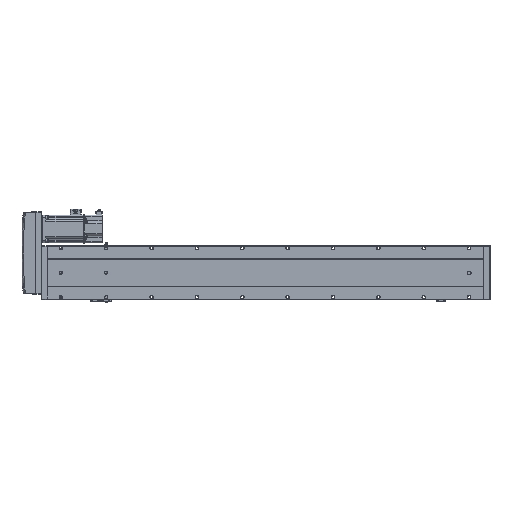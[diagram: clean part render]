
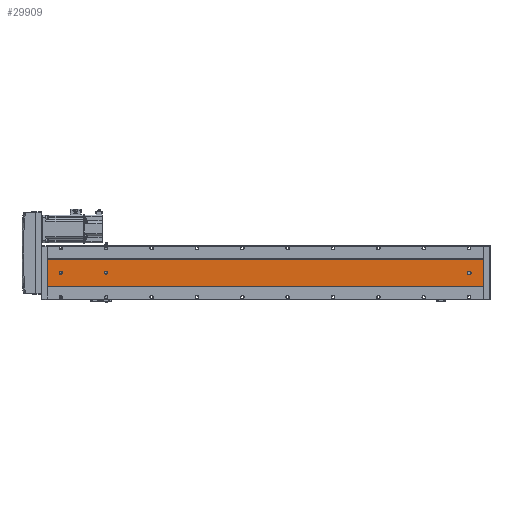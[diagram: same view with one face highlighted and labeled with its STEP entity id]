
A CAD part, front view. The second image highlights one B-rep face of the part: STEP entity #29909.
In plain terms, the highlighted planar face has unit normal (0, -1, 0).
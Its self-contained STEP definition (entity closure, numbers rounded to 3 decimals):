
#192 = EDGE_CURVE ( 'NONE', #93615, #107320, #4173, .T. ) ;
#2060 = DIRECTION ( 'NONE',  ( 0., 1., 0. ) ) ;
#4173 = LINE ( 'NONE', #57124, #88517 ) ;
#5510 = ORIENTED_EDGE ( 'NONE', *, *, #67887, .T. ) ;
#6515 = CARTESIAN_POINT ( 'NONE',  ( -39.892, -52.848, 827.5 ) ) ;
#6745 = CIRCLE ( 'NONE', #21446, 3.5 ) ;
#6903 = DIRECTION ( 'NONE',  ( 0., 0., 1. ) ) ;
#7953 = DIRECTION ( 'NONE',  ( 0., 1., 0. ) ) ;
#8152 = ORIENTED_EDGE ( 'NONE', *, *, #56244, .T. ) ;
#8411 = LINE ( 'NONE', #11473, #49350 ) ;
#8792 = DIRECTION ( 'NONE',  ( 0., 1., 0. ) ) ;
#9260 = CARTESIAN_POINT ( 'NONE',  ( -39.892, -52.848, 927.5 ) ) ;
#9650 = ORIENTED_EDGE ( 'NONE', *, *, #40435, .F. ) ;
#9822 = CARTESIAN_POINT ( 'NONE',  ( -9.892, -52.848, 0. ) ) ;
#10262 = CARTESIAN_POINT ( 'NONE',  ( -69.892, -52.848, 0. ) ) ;
#11473 = CARTESIAN_POINT ( 'NONE',  ( -69.892, -52.848, 0. ) ) ;
#11630 = CARTESIAN_POINT ( 'NONE',  ( -39.892, -52.848, 30. ) ) ;
#11658 = FACE_OUTER_BOUND ( 'NONE', #95435, .T. ) ;
#12832 = CIRCLE ( 'NONE', #88011, 3.5 ) ;
#13857 = VERTEX_POINT ( 'NONE', #109004 ) ;
#14222 = EDGE_LOOP ( 'NONE', ( #19872, #64378 ) ) ;
#14258 = FACE_BOUND ( 'NONE', #66632, .T. ) ;
#14610 = ORIENTED_EDGE ( 'NONE', *, *, #79521, .T. ) ;
#15412 = CARTESIAN_POINT ( 'NONE',  ( -39.892, -52.848, 931. ) ) ;
#15608 = AXIS2_PLACEMENT_3D ( 'NONE', #42319, #8792, #59627 ) ;
#16011 = AXIS2_PLACEMENT_3D ( 'NONE', #48183, #82032, #55571 ) ;
#19654 = EDGE_CURVE ( 'NONE', #46467, #105068, #103186, .T. ) ;
#19872 = ORIENTED_EDGE ( 'NONE', *, *, #56784, .T. ) ;
#20474 = CARTESIAN_POINT ( 'NONE',  ( -9.892, -52.848, 961. ) ) ;
#21446 = AXIS2_PLACEMENT_3D ( 'NONE', #78922, #45484, #104367 ) ;
#22131 = DIRECTION ( 'NONE',  ( 0., 1., 0. ) ) ;
#23553 = DIRECTION ( 'NONE',  ( 0., 0., 1. ) ) ;
#23720 = DIRECTION ( 'NONE',  ( 0., 0., -1. ) ) ;
#23975 = AXIS2_PLACEMENT_3D ( 'NONE', #61736, #2060, #61018 ) ;
#27080 = CARTESIAN_POINT ( 'NONE',  ( -69.892, -52.848, 961. ) ) ;
#27608 = ORIENTED_EDGE ( 'NONE', *, *, #81301, .T. ) ;
#28646 = AXIS2_PLACEMENT_3D ( 'NONE', #15412, #99798, #23553 ) ;
#28933 = DIRECTION ( 'NONE',  ( 0., 0., -1. ) ) ;
#29909 = ADVANCED_FACE ( 'NONE', ( #14258, #32755, #49890, #11658 ), #31575, .F. ) ;
#30291 = EDGE_CURVE ( 'NONE', #67709, #93615, #12832, .T. ) ;
#31575 = PLANE ( 'NONE',  #16011 ) ;
#31653 = VECTOR ( 'NONE', #86695, 1000. ) ;
#32755 = FACE_BOUND ( 'NONE', #14222, .T. ) ;
#33523 = LINE ( 'NONE', #20474, #82349 ) ;
#34491 = ORIENTED_EDGE ( 'NONE', *, *, #49036, .T. ) ;
#35725 = ORIENTED_EDGE ( 'NONE', *, *, #192, .T. ) ;
#36012 = AXIS2_PLACEMENT_3D ( 'NONE', #47195, #22131, #64856 ) ;
#37127 = ORIENTED_EDGE ( 'NONE', *, *, #50991, .T. ) ;
#38590 = VERTEX_POINT ( 'NONE', #69528 ) ;
#39758 = CARTESIAN_POINT ( 'NONE',  ( -43.392, -52.848, 32. ) ) ;
#40435 = EDGE_CURVE ( 'NONE', #13857, #50667, #33523, .T. ) ;
#41347 = CARTESIAN_POINT ( 'NONE',  ( -69.892, -52.848, 961. ) ) ;
#42319 = CARTESIAN_POINT ( 'NONE',  ( -39.892, -52.848, 30. ) ) ;
#45484 = DIRECTION ( 'NONE',  ( 0., 1., 0. ) ) ;
#46467 = VERTEX_POINT ( 'NONE', #9260 ) ;
#46739 = VECTOR ( 'NONE', #63176, 1000. ) ;
#47195 = CARTESIAN_POINT ( 'NONE',  ( -39.892, -52.848, 831. ) ) ;
#48183 = CARTESIAN_POINT ( 'NONE',  ( -69.892, -52.848, 961. ) ) ;
#48611 = VERTEX_POINT ( 'NONE', #10262 ) ;
#49036 = EDGE_CURVE ( 'NONE', #79318, #67709, #93884, .T. ) ;
#49350 = VECTOR ( 'NONE', #71539, 1000. ) ;
#49890 = FACE_BOUND ( 'NONE', #70852, .T. ) ;
#50667 = VERTEX_POINT ( 'NONE', #9822 ) ;
#50991 = EDGE_CURVE ( 'NONE', #38590, #48611, #79114, .T. ) ;
#55571 = DIRECTION ( 'NONE',  ( 0., 0., 1. ) ) ;
#56134 = ORIENTED_EDGE ( 'NONE', *, *, #89514, .F. ) ;
#56244 = EDGE_CURVE ( 'NONE', #102306, #79318, #82304, .T. ) ;
#56784 = EDGE_CURVE ( 'NONE', #73947, #107447, #90279, .T. ) ;
#57124 = CARTESIAN_POINT ( 'NONE',  ( -43.392, -52.848, 961. ) ) ;
#58437 = CARTESIAN_POINT ( 'NONE',  ( -39.892, -52.848, 831. ) ) ;
#59061 = ORIENTED_EDGE ( 'NONE', *, *, #19654, .T. ) ;
#59627 = DIRECTION ( 'NONE',  ( 0., 0., 1. ) ) ;
#60112 = ORIENTED_EDGE ( 'NONE', *, *, #30291, .T. ) ;
#61018 = DIRECTION ( 'NONE',  ( 0., 0., 1. ) ) ;
#61736 = CARTESIAN_POINT ( 'NONE',  ( -39.892, -52.848, 931. ) ) ;
#63176 = DIRECTION ( 'NONE',  ( 0., 0., -1. ) ) ;
#64378 = ORIENTED_EDGE ( 'NONE', *, *, #87119, .T. ) ;
#64856 = DIRECTION ( 'NONE',  ( 0., 0., 1. ) ) ;
#66632 = EDGE_LOOP ( 'NONE', ( #35725, #27608, #8152, #34491, #60112 ) ) ;
#67375 = CARTESIAN_POINT ( 'NONE',  ( -39.892, -52.848, 834.5 ) ) ;
#67709 = VERTEX_POINT ( 'NONE', #83489 ) ;
#67887 = EDGE_CURVE ( 'NONE', #105068, #46467, #73840, .T. ) ;
#69528 = CARTESIAN_POINT ( 'NONE',  ( -69.892, -52.848, 961. ) ) ;
#70615 = DIRECTION ( 'NONE',  ( 0., 1., 0. ) ) ;
#70852 = EDGE_LOOP ( 'NONE', ( #59061, #5510 ) ) ;
#71330 = DIRECTION ( 'NONE',  ( 0., 0., 1. ) ) ;
#71539 = DIRECTION ( 'NONE',  ( 1., 0., 0. ) ) ;
#72650 = DIRECTION ( 'NONE',  ( 0., 0., 1. ) ) ;
#73840 = CIRCLE ( 'NONE', #23975, 3.5 ) ;
#73947 = VERTEX_POINT ( 'NONE', #6515 ) ;
#76249 = CARTESIAN_POINT ( 'NONE',  ( -36.392, -52.848, 30. ) ) ;
#78922 = CARTESIAN_POINT ( 'NONE',  ( -39.892, -52.848, 32. ) ) ;
#79106 = LINE ( 'NONE', #27080, #31653 ) ;
#79114 = LINE ( 'NONE', #41347, #106796 ) ;
#79318 = VERTEX_POINT ( 'NONE', #76249 ) ;
#79521 = EDGE_CURVE ( 'NONE', #48611, #50667, #8411, .T. ) ;
#80458 = CARTESIAN_POINT ( 'NONE',  ( -36.392, -52.848, 961. ) ) ;
#80690 = CARTESIAN_POINT ( 'NONE',  ( -36.392, -52.848, 32. ) ) ;
#81301 = EDGE_CURVE ( 'NONE', #107320, #102306, #6745, .T. ) ;
#82032 = DIRECTION ( 'NONE',  ( 0., 1., 0. ) ) ;
#82043 = CARTESIAN_POINT ( 'NONE',  ( -43.392, -52.848, 30. ) ) ;
#82304 = LINE ( 'NONE', #80458, #46739 ) ;
#82349 = VECTOR ( 'NONE', #28933, 1000. ) ;
#83489 = CARTESIAN_POINT ( 'NONE',  ( -39.892, -52.848, 26.5 ) ) ;
#84964 = CARTESIAN_POINT ( 'NONE',  ( -39.892, -52.848, 934.5 ) ) ;
#86695 = DIRECTION ( 'NONE',  ( 1., 0., 0. ) ) ;
#87119 = EDGE_CURVE ( 'NONE', #107447, #73947, #108396, .T. ) ;
#88011 = AXIS2_PLACEMENT_3D ( 'NONE', #11630, #70615, #71330 ) ;
#88517 = VECTOR ( 'NONE', #72650, 1000. ) ;
#89514 = EDGE_CURVE ( 'NONE', #38590, #13857, #79106, .T. ) ;
#90279 = CIRCLE ( 'NONE', #36012, 3.5 ) ;
#93615 = VERTEX_POINT ( 'NONE', #82043 ) ;
#93884 = CIRCLE ( 'NONE', #15608, 3.5 ) ;
#95435 = EDGE_LOOP ( 'NONE', ( #14610, #9650, #56134, #37127 ) ) ;
#99798 = DIRECTION ( 'NONE',  ( 0., 1., 0. ) ) ;
#102306 = VERTEX_POINT ( 'NONE', #80690 ) ;
#103186 = CIRCLE ( 'NONE', #28646, 3.5 ) ;
#104367 = DIRECTION ( 'NONE',  ( 0., 0., 1. ) ) ;
#105068 = VERTEX_POINT ( 'NONE', #84964 ) ;
#106796 = VECTOR ( 'NONE', #23720, 1000. ) ;
#107320 = VERTEX_POINT ( 'NONE', #39758 ) ;
#107447 = VERTEX_POINT ( 'NONE', #67375 ) ;
#108028 = AXIS2_PLACEMENT_3D ( 'NONE', #58437, #7953, #6903 ) ;
#108396 = CIRCLE ( 'NONE', #108028, 3.5 ) ;
#109004 = CARTESIAN_POINT ( 'NONE',  ( -9.892, -52.848, 961. ) ) ;
